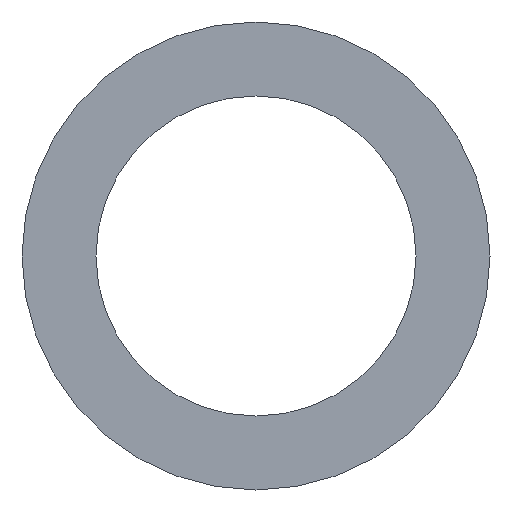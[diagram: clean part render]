
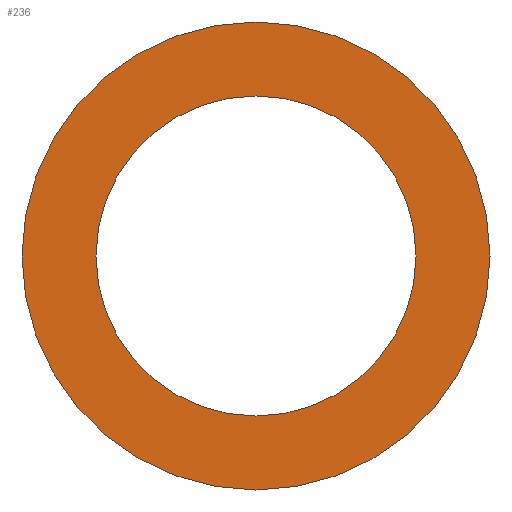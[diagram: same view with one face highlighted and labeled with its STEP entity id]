
A CAD part, left-side view. The second image highlights one B-rep face of the part: STEP entity #236.
In plain terms, the highlighted planar face has unit normal (-1, 0, 0).
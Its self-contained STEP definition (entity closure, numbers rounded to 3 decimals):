
#6 = AXIS2_PLACEMENT_3D ( 'NONE', #56, #57, #58 ) ;
#7 = CIRCLE ( 'NONE', #6, 8.55 ) ;
#8 = AXIS2_PLACEMENT_3D ( 'NONE', #53, #54, #55 ) ;
#10 = CIRCLE ( 'NONE', #8, 8.55 ) ;
#13 = AXIS2_PLACEMENT_3D ( 'NONE', #125, #127, #128 ) ;
#16 = CIRCLE ( 'NONE', #13, 12.5 ) ;
#27 = AXIS2_PLACEMENT_3D ( 'NONE', #107, #110, #115 ) ;
#31 = CIRCLE ( 'NONE', #33, 12.5 ) ;
#33 = AXIS2_PLACEMENT_3D ( 'NONE', #99, #98, #96 ) ;
#53 = CARTESIAN_POINT ( 'NONE',  ( 0., 0., 0. ) ) ;
#54 = DIRECTION ( 'NONE',  ( -1., 0., 0. ) ) ;
#55 = DIRECTION ( 'NONE',  ( 0., 0., 1. ) ) ;
#56 = CARTESIAN_POINT ( 'NONE',  ( 0., 0., 0. ) ) ;
#57 = DIRECTION ( 'NONE',  ( -1., 0., 0. ) ) ;
#58 = DIRECTION ( 'NONE',  ( 0., 0., 1. ) ) ;
#96 = DIRECTION ( 'NONE',  ( 0., 0., 1. ) ) ;
#98 = DIRECTION ( 'NONE',  ( -1., 0., 0. ) ) ;
#99 = CARTESIAN_POINT ( 'NONE',  ( 0., 0., 0. ) ) ;
#104 = PLANE ( 'NONE',  #27 ) ;
#107 = CARTESIAN_POINT ( 'NONE',  ( 0., 8.55, 0. ) ) ;
#110 = DIRECTION ( 'NONE',  ( 1., 0., 0. ) ) ;
#115 = DIRECTION ( 'NONE',  ( 0., 0., -1. ) ) ;
#124 = CARTESIAN_POINT ( 'NONE',  ( 0., 0., 12.5 ) ) ;
#125 = CARTESIAN_POINT ( 'NONE',  ( 0., 0., 0. ) ) ;
#127 = DIRECTION ( 'NONE',  ( -1., 0., 0. ) ) ;
#128 = DIRECTION ( 'NONE',  ( 0., 0., 1. ) ) ;
#143 = EDGE_LOOP ( 'NONE', ( #188, #208 ) ) ;
#146 = EDGE_LOOP ( 'NONE', ( #205, #209 ) ) ;
#158 = VERTEX_POINT ( 'NONE', #249 ) ;
#180 = VERTEX_POINT ( 'NONE', #246 ) ;
#185 = VERTEX_POINT ( 'NONE', #248 ) ;
#188 = ORIENTED_EDGE ( 'NONE', *, *, #220, .T. ) ;
#203 = VERTEX_POINT ( 'NONE', #124 ) ;
#205 = ORIENTED_EDGE ( 'NONE', *, *, #227, .F. ) ;
#208 = ORIENTED_EDGE ( 'NONE', *, *, #243, .T. ) ;
#209 = ORIENTED_EDGE ( 'NONE', *, *, #225, .F. ) ;
#215 = FACE_OUTER_BOUND ( 'NONE', #143, .T. ) ;
#216 = FACE_BOUND ( 'NONE', #146, .T. ) ;
#220 = EDGE_CURVE ( 'NONE', #203, #180, #16, .T. ) ;
#225 = EDGE_CURVE ( 'NONE', #158, #185, #10, .T. ) ;
#227 = EDGE_CURVE ( 'NONE', #185, #158, #7, .T. ) ;
#236 = ADVANCED_FACE ( 'NONE', ( #216, #215 ), #104, .F. ) ;
#243 = EDGE_CURVE ( 'NONE', #180, #203, #31, .T. ) ;
#246 = CARTESIAN_POINT ( 'NONE',  ( 0., 0., -12.5 ) ) ;
#248 = CARTESIAN_POINT ( 'NONE',  ( 0., 0., 8.55 ) ) ;
#249 = CARTESIAN_POINT ( 'NONE',  ( 0., 0., -8.55 ) ) ;
